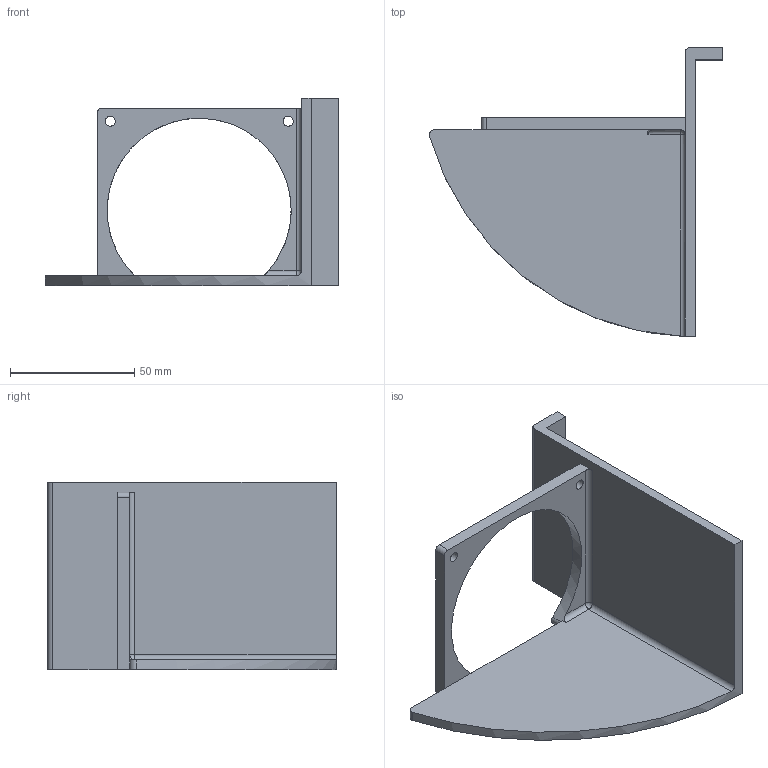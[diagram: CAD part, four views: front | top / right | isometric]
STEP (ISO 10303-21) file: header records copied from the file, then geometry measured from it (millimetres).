
FILE_DESCRIPTION(/* description */ (''),/* implementation_level */ '2;1');
FILE_NAME(/* name */ '3D_ElectronicsHousing.stp',/* time_stamp */ '2016-02-01T17:06:58-05:00',/* author */ (''),/* organization */ (''),/* preprocessor_version */ 'ST-DEVELOPER v11',/* originating_system */ 'SIEMENS PLM Software NX 7.5',/* authorisation */ '');
FILE_SCHEMA (('AUTOMOTIVE_DESIGN { 1 0 10303 214 1 1 1 1 }'));
Length unit declared in the file: millimetre
Products named in the file (1): jled6FC4vbxn
Bounding box: 117.79 x 116 x 75.3 mm (x, y, z)
Volume: 72731.1 mm3; surface area: 38489.1 mm2
Topology: 1 solids, 1 shells, 27 faces, 79 edges, 51 vertices
Faces by surface type: plane 14, cylinder 12, sphere 1
Full cylindrical faces by diameter (mm): 4 x2
Entity records: 927 total; most frequent: CARTESIAN_POINT 181, DIRECTION 153, ORIENTED_EDGE 148, EDGE_CURVE 74, AXIS2_PLACEMENT_3D 53, VERTEX_POINT 49, LINE 47, VECTOR 47
